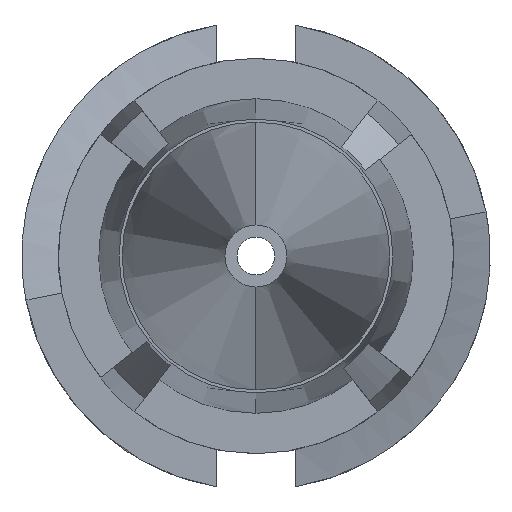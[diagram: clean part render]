
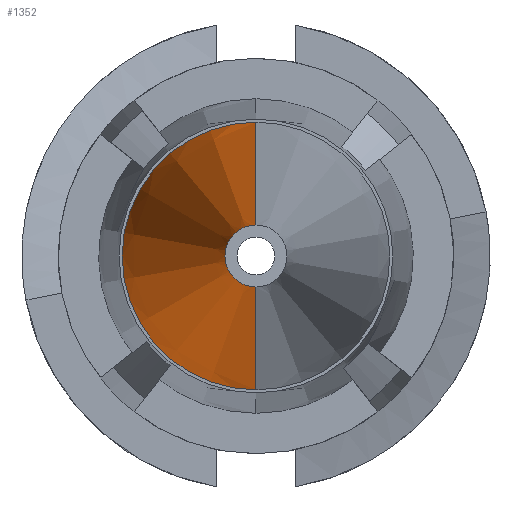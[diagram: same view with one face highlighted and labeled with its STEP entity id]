
A CAD part, left-side view. The second image highlights one B-rep face of the part: STEP entity #1352.
In plain terms, the highlighted conical face has half-angle 5.439 degrees and reference radius 2.2 mm.
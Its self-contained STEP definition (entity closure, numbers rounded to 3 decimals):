
#34 = DIRECTION ( 'NONE',  ( 0., 0., -1. ) ) ;
#72 = VERTEX_POINT ( 'NONE', #1757 ) ;
#101 = EDGE_LOOP ( 'NONE', ( #1531, #1224, #1111, #222 ) ) ;
#107 = CIRCLE ( 'NONE', #1343, 0.51 ) ;
#167 = FACE_OUTER_BOUND ( 'NONE', #101, .T. ) ;
#222 = ORIENTED_EDGE ( 'NONE', *, *, #807, .F. ) ;
#407 = CARTESIAN_POINT ( 'NONE',  ( -31.75, 0., 0. ) ) ;
#460 = DIRECTION ( 'NONE',  ( 0., 0., -1. ) ) ;
#466 = EDGE_CURVE ( 'NONE', #1669, #1035, #1387, .T. ) ;
#491 = DIRECTION ( 'NONE',  ( 1., 0., 0. ) ) ;
#564 = CARTESIAN_POINT ( 'NONE',  ( -31.75, 0., -0.51 ) ) ;
#656 = VERTEX_POINT ( 'NONE', #564 ) ;
#699 = DIRECTION ( 'NONE',  ( 0., 0., -1. ) ) ;
#704 = CONICAL_SURFACE ( 'NONE', #1667, 2.2, 0.095 ) ;
#744 = DIRECTION ( 'NONE',  ( 0.995, 0., 0.095 ) ) ;
#807 = EDGE_CURVE ( 'NONE', #656, #1669, #1601, .T. ) ;
#1023 = LINE ( 'NONE', #1464, #1282 ) ;
#1031 = DIRECTION ( 'NONE',  ( 1., 0., 0. ) ) ;
#1035 = VERTEX_POINT ( 'NONE', #1435 ) ;
#1054 = EDGE_CURVE ( 'NONE', #72, #1035, #1023, .T. ) ;
#1055 = CARTESIAN_POINT ( 'NONE',  ( -14., 0., 0. ) ) ;
#1111 = ORIENTED_EDGE ( 'NONE', *, *, #466, .F. ) ;
#1224 = ORIENTED_EDGE ( 'NONE', *, *, #1054, .T. ) ;
#1282 = VECTOR ( 'NONE', #744, 1000. ) ;
#1337 = DIRECTION ( 'NONE',  ( 0.995, 0., -0.095 ) ) ;
#1343 = AXIS2_PLACEMENT_3D ( 'NONE', #407, #1558, #699 ) ;
#1352 = ADVANCED_FACE ( 'NONE', ( #167 ), #704, .T. ) ;
#1387 = CIRCLE ( 'NONE', #1752, 2.2 ) ;
#1435 = CARTESIAN_POINT ( 'NONE',  ( -14., 0., 2.2 ) ) ;
#1464 = CARTESIAN_POINT ( 'NONE',  ( -14., 0., 2.2 ) ) ;
#1487 = CARTESIAN_POINT ( 'NONE',  ( -14., 0., -2.2 ) ) ;
#1531 = ORIENTED_EDGE ( 'NONE', *, *, #1621, .T. ) ;
#1558 = DIRECTION ( 'NONE',  ( 1., 0., 0. ) ) ;
#1594 = CARTESIAN_POINT ( 'NONE',  ( -14., 0., -2.2 ) ) ;
#1601 = LINE ( 'NONE', #1594, #1636 ) ;
#1621 = EDGE_CURVE ( 'NONE', #656, #72, #107, .T. ) ;
#1636 = VECTOR ( 'NONE', #1337, 1000. ) ;
#1667 = AXIS2_PLACEMENT_3D ( 'NONE', #1866, #1031, #34 ) ;
#1669 = VERTEX_POINT ( 'NONE', #1487 ) ;
#1752 = AXIS2_PLACEMENT_3D ( 'NONE', #1055, #491, #460 ) ;
#1757 = CARTESIAN_POINT ( 'NONE',  ( -31.75, 0., 0.51 ) ) ;
#1866 = CARTESIAN_POINT ( 'NONE',  ( -14., 0., 0. ) ) ;
